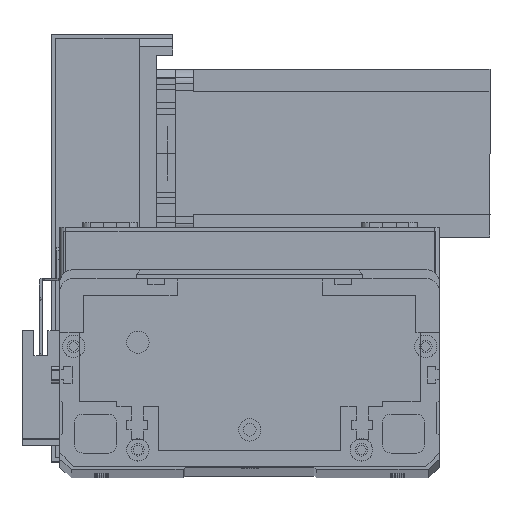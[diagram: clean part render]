
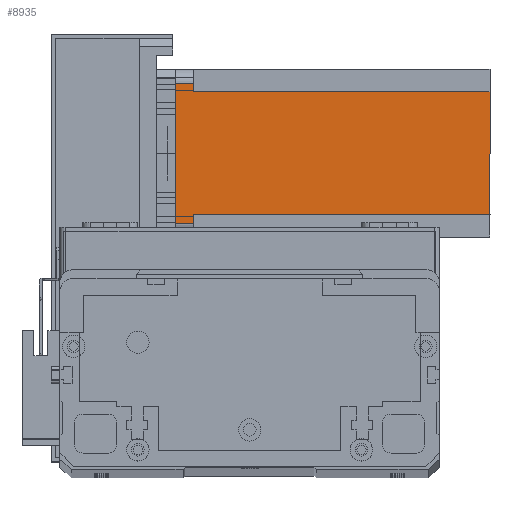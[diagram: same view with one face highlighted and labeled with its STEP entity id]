
A CAD part, top view. The second image highlights one B-rep face of the part: STEP entity #8935.
In plain terms, the highlighted planar face has unit normal (0, 0, 1) as drawn and (0, -1, 0) by its records, which use the part's own axes.
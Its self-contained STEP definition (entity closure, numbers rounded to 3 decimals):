
#440 = ORIENTED_EDGE ( 'NONE', *, *, #17536, .F. ) ;
#505 = VERTEX_POINT ( 'NONE', #21477 ) ;
#779 = EDGE_CURVE ( 'NONE', #8983, #26717, #10444, .T. ) ;
#794 = DIRECTION ( 'NONE',  ( 1., 0., 0. ) ) ;
#933 = VERTEX_POINT ( 'NONE', #6492 ) ;
#1159 = ORIENTED_EDGE ( 'NONE', *, *, #8165, .F. ) ;
#2477 = CARTESIAN_POINT ( 'NONE',  ( 55., 0., -112.5 ) ) ;
#2930 = DIRECTION ( 'NONE',  ( 0., -1., 0. ) ) ;
#3227 = ORIENTED_EDGE ( 'NONE', *, *, #4296, .T. ) ;
#3624 = ORIENTED_EDGE ( 'NONE', *, *, #779, .T. ) ;
#3874 = VERTEX_POINT ( 'NONE', #28320 ) ;
#4296 = EDGE_CURVE ( 'NONE', #3874, #8604, #5337, .T. ) ;
#4787 = LINE ( 'NONE', #9771, #28537 ) ;
#5167 = CARTESIAN_POINT ( 'NONE',  ( 0., 0., -112.5 ) ) ;
#5337 = LINE ( 'NONE', #2477, #16265 ) ;
#5928 = ORIENTED_EDGE ( 'NONE', *, *, #22712, .F. ) ;
#6441 = CARTESIAN_POINT ( 'NONE',  ( 8., 0., -112.5 ) ) ;
#6492 = CARTESIAN_POINT ( 'NONE',  ( 52., 0., -6.5 ) ) ;
#7263 = DIRECTION ( 'NONE',  ( 0., 0., 1. ) ) ;
#7828 = VECTOR ( 'NONE', #15698, 1000. ) ;
#8165 = EDGE_CURVE ( 'NONE', #8983, #8604, #4787, .T. ) ;
#8604 = VERTEX_POINT ( 'NONE', #29384 ) ;
#8661 = VECTOR ( 'NONE', #27203, 1000. ) ;
#8935 = ADVANCED_FACE ( 'NONE', ( #25694 ), #28193, .T. ) ;
#8975 = EDGE_CURVE ( 'NONE', #505, #9386, #18941, .T. ) ;
#8983 = VERTEX_POINT ( 'NONE', #21614 ) ;
#9069 = DIRECTION ( 'NONE',  ( 1., 0., 0. ) ) ;
#9386 = VERTEX_POINT ( 'NONE', #11584 ) ;
#9399 = LINE ( 'NONE', #6441, #8661 ) ;
#9771 = CARTESIAN_POINT ( 'NONE',  ( 0., 0., 0. ) ) ;
#10444 = LINE ( 'NONE', #27013, #27960 ) ;
#11584 = CARTESIAN_POINT ( 'NONE',  ( 52., 0., -112.5 ) ) ;
#13232 = EDGE_CURVE ( 'NONE', #933, #9386, #17593, .T. ) ;
#13349 = CARTESIAN_POINT ( 'NONE',  ( 8., 0., -6.5 ) ) ;
#13380 = VECTOR ( 'NONE', #13710, 1000. ) ;
#13681 = CARTESIAN_POINT ( 'NONE',  ( 5., 0., -6.5 ) ) ;
#13710 = DIRECTION ( 'NONE',  ( 1., 0., 0. ) ) ;
#13956 = VERTEX_POINT ( 'NONE', #23431 ) ;
#14069 = AXIS2_PLACEMENT_3D ( 'NONE', #5167, #2930, #19197 ) ;
#15698 = DIRECTION ( 'NONE',  ( -1., 0., 0. ) ) ;
#15947 = CARTESIAN_POINT ( 'NONE',  ( 52., 0., -6.5 ) ) ;
#16265 = VECTOR ( 'NONE', #7263, 1000. ) ;
#17536 = EDGE_CURVE ( 'NONE', #13956, #26717, #18720, .T. ) ;
#17593 = LINE ( 'NONE', #29706, #22979 ) ;
#18188 = VECTOR ( 'NONE', #794, 1000. ) ;
#18401 = EDGE_LOOP ( 'NONE', ( #24101, #3227, #1159, #3624, #440, #5928, #20727, #28483 ) ) ;
#18720 = LINE ( 'NONE', #13349, #7828 ) ;
#18941 = LINE ( 'NONE', #28397, #18188 ) ;
#19197 = DIRECTION ( 'NONE',  ( 0., 0., -1. ) ) ;
#19541 = LINE ( 'NONE', #15947, #13380 ) ;
#20727 = ORIENTED_EDGE ( 'NONE', *, *, #8975, .T. ) ;
#20761 = DIRECTION ( 'NONE',  ( 0., 0., -1. ) ) ;
#21477 = CARTESIAN_POINT ( 'NONE',  ( 8., 0., -112.5 ) ) ;
#21614 = CARTESIAN_POINT ( 'NONE',  ( 5., 0., 0. ) ) ;
#22712 = EDGE_CURVE ( 'NONE', #505, #13956, #9399, .T. ) ;
#22749 = EDGE_CURVE ( 'NONE', #933, #3874, #19541, .T. ) ;
#22979 = VECTOR ( 'NONE', #20761, 1000. ) ;
#23431 = CARTESIAN_POINT ( 'NONE',  ( 8., 0., -6.5 ) ) ;
#24101 = ORIENTED_EDGE ( 'NONE', *, *, #22749, .T. ) ;
#25694 = FACE_OUTER_BOUND ( 'NONE', #18401, .T. ) ;
#26717 = VERTEX_POINT ( 'NONE', #13681 ) ;
#27013 = CARTESIAN_POINT ( 'NONE',  ( 5., 0., -112.5 ) ) ;
#27203 = DIRECTION ( 'NONE',  ( 0., 0., 1. ) ) ;
#27960 = VECTOR ( 'NONE', #28593, 1000. ) ;
#28193 = PLANE ( 'NONE',  #14069 ) ;
#28320 = CARTESIAN_POINT ( 'NONE',  ( 55., 0., -6.5 ) ) ;
#28397 = CARTESIAN_POINT ( 'NONE',  ( 0., 0., -112.5 ) ) ;
#28483 = ORIENTED_EDGE ( 'NONE', *, *, #13232, .F. ) ;
#28537 = VECTOR ( 'NONE', #9069, 1000. ) ;
#28593 = DIRECTION ( 'NONE',  ( 0., 0., -1. ) ) ;
#29384 = CARTESIAN_POINT ( 'NONE',  ( 55., 0., 0. ) ) ;
#29706 = CARTESIAN_POINT ( 'NONE',  ( 52., 0., -112.5 ) ) ;
